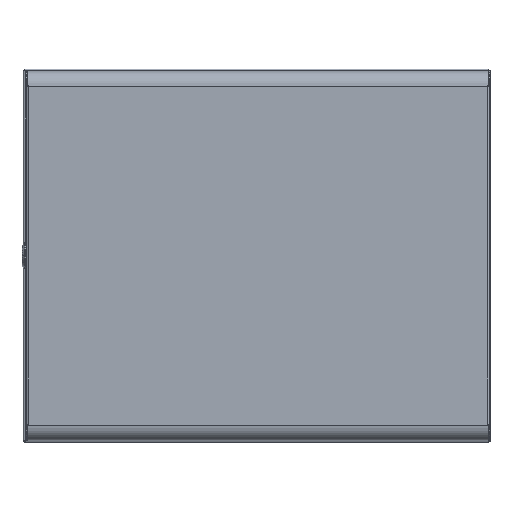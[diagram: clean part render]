
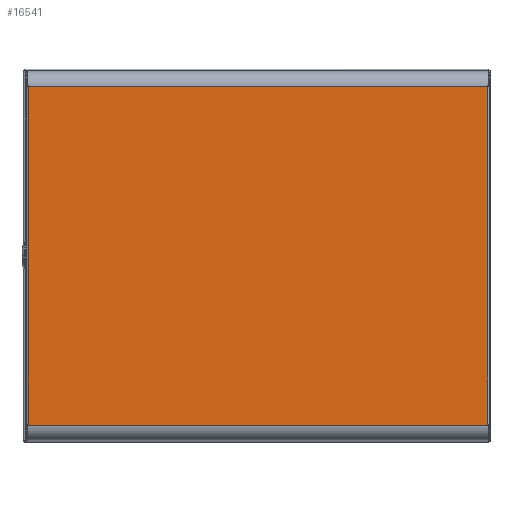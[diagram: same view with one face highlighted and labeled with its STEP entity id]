
A CAD part, top view. The second image highlights one B-rep face of the part: STEP entity #16541.
In plain terms, the highlighted planar face has unit normal (0, 0, 1) as drawn and (0, -1, 0) by its records, which use the part's own axes.
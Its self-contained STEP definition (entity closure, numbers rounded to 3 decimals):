
#15017=DIRECTION('',(-1.,0.,0.));
#15018=VECTOR('',#15017,491.929);
#15019=CARTESIAN_POINT('',(245.965,-1.5,181.5));
#15020=LINE('',#15019,#15018);
#15057=CARTESIAN_POINT('',(246.5,-1.5,181.5));
#15058=DIRECTION('',(0.,1.,0.));
#15059=DIRECTION('',(-0.934,0.,-0.358));
#15060=AXIS2_PLACEMENT_3D('',#15057,#15058,#15059);
#15065=CARTESIAN_POINT('',(246.5,-1.5,-181.5));
#15066=DIRECTION('',(0.,-1.,0.));
#15067=DIRECTION('',(-0.934,0.,0.358));
#15068=AXIS2_PLACEMENT_3D('',#15065,#15066,#15067);
#15073=CARTESIAN_POINT('',(-246.5,-1.5,-181.5));
#15074=DIRECTION('',(0.,1.,0.));
#15075=DIRECTION('',(0.934,0.,0.358));
#15076=AXIS2_PLACEMENT_3D('',#15073,#15074,#15075);
#15081=CARTESIAN_POINT('',(-246.5,-1.5,181.5));
#15082=DIRECTION('',(0.,-1.,0.));
#15083=DIRECTION('',(0.934,0.,-0.358));
#15084=AXIS2_PLACEMENT_3D('',#15081,#15082,#15083);
#15148=DIRECTION('',(0.,0.,1.));
#15149=VECTOR('',#15148,362.617);
#15150=CARTESIAN_POINT('',(246.,-1.5,-181.309));
#15151=LINE('',#15150,#15149);
#15321=DIRECTION('',(1.,0.,0.));
#15322=VECTOR('',#15321,491.929);
#15323=CARTESIAN_POINT('',(-245.965,-1.5,-181.5));
#15324=LINE('',#15323,#15322);
#15421=DIRECTION('',(0.,0.,-1.));
#15422=VECTOR('',#15421,362.617);
#15423=CARTESIAN_POINT('',(-246.,-1.5,181.309));
#15424=LINE('',#15423,#15422);
#15931=CARTESIAN_POINT('',(-246.,-1.5,-181.309));
#15932=CARTESIAN_POINT('',(-245.965,-1.5,-181.5));
#15933=VERTEX_POINT('',#15931);
#15934=VERTEX_POINT('',#15932);
#15939=CARTESIAN_POINT('',(-246.,-1.5,181.309));
#15940=CARTESIAN_POINT('',(-245.965,-1.5,181.5));
#15941=VERTEX_POINT('',#15939);
#15942=VERTEX_POINT('',#15940);
#15947=CARTESIAN_POINT('',(246.,-1.5,-181.309));
#15948=CARTESIAN_POINT('',(245.965,-1.5,-181.5));
#15949=VERTEX_POINT('',#15947);
#15950=VERTEX_POINT('',#15948);
#15955=CARTESIAN_POINT('',(246.,-1.5,181.309));
#15956=CARTESIAN_POINT('',(245.965,-1.5,181.5));
#15957=VERTEX_POINT('',#15955);
#15958=VERTEX_POINT('',#15956);
#16523=CARTESIAN_POINT('',(0.,-1.5,0.));
#16524=DIRECTION('',(0.,1.,0.));
#16525=DIRECTION('',(1.,0.,0.));
#16526=AXIS2_PLACEMENT_3D('',#16523,#16524,#16525);
#16527=PLANE('',#16526);
#16528=ORIENTED_EDGE('',*,*,#16041,.F.);
#16530=ORIENTED_EDGE('',*,*,#16529,.F.);
#16531=ORIENTED_EDGE('',*,*,#16168,.T.);
#16533=ORIENTED_EDGE('',*,*,#16532,.F.);
#16534=ORIENTED_EDGE('',*,*,#16278,.F.);
#16536=ORIENTED_EDGE('',*,*,#16535,.F.);
#16537=ORIENTED_EDGE('',*,*,#16404,.T.);
#16538=ORIENTED_EDGE('',*,*,#16511,.F.);
#16539=EDGE_LOOP('',(#16528,#16530,#16531,#16533,#16534,#16536,#16537,#16538));
#16540=FACE_OUTER_BOUND('',#16539,.F.);
#15061=CIRCLE('',#15060,0.535);
#15069=CIRCLE('',#15068,0.535);
#15077=CIRCLE('',#15076,0.535);
#15085=CIRCLE('',#15084,0.535);
#16041=EDGE_CURVE('',#15957,#15958,#15061,.T.);
#16168=EDGE_CURVE('',#15949,#15950,#15069,.T.);
#16278=EDGE_CURVE('',#15933,#15934,#15077,.T.);
#16404=EDGE_CURVE('',#15941,#15942,#15085,.T.);
#16511=EDGE_CURVE('',#15958,#15942,#15020,.T.);
#16529=EDGE_CURVE('',#15949,#15957,#15151,.T.);
#16532=EDGE_CURVE('',#15934,#15950,#15324,.T.);
#16535=EDGE_CURVE('',#15941,#15933,#15424,.T.);
#16541=ADVANCED_FACE('',(#16540),#16527,.F.);
